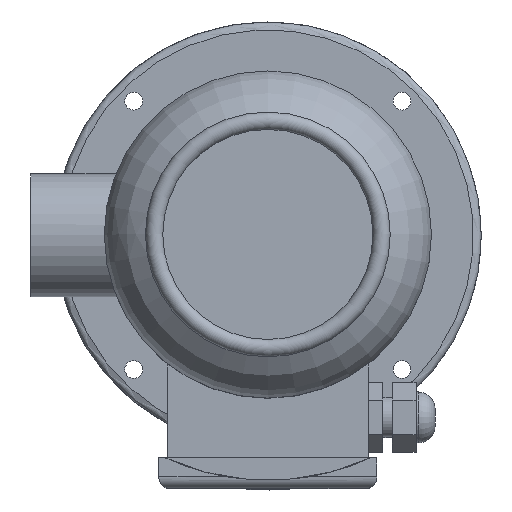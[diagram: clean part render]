
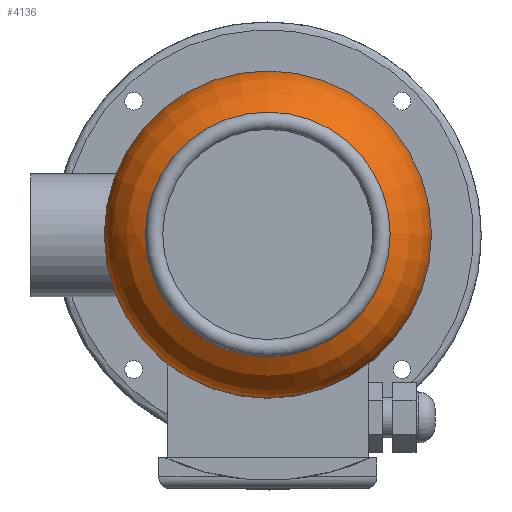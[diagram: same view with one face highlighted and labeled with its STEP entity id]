
A CAD part, top view. The second image highlights one B-rep face of the part: STEP entity #4136.
In plain terms, the highlighted toroidal (fillet/blend) face has major radius 37.539 mm and minor radius 32 mm.
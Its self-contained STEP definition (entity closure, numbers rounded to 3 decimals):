
#114=TOROIDAL_SURFACE('',#4449,37.539,32.);
#429=CIRCLE('',#4444,68.997);
#431=CIRCLE('',#4448,51.3);
#1550=ORIENTED_EDGE('',*,*,#2109,.T.);
#1551=ORIENTED_EDGE('',*,*,#2111,.T.);
#2109=EDGE_CURVE('',#2504,#2504,#429,.F.);
#2111=EDGE_CURVE('',#2506,#2506,#431,.T.);
#2504=VERTEX_POINT('',#9549);
#2506=VERTEX_POINT('',#9555);
#3430=EDGE_LOOP('',(#1550));
#3431=EDGE_LOOP('',(#1551));
#3779=FACE_BOUND('',#3430,.T.);
#3780=FACE_BOUND('',#3431,.T.);
#4136=ADVANCED_FACE('',(#3779,#3780),#114,.T.);
#4444=AXIS2_PLACEMENT_3D('',#9548,#5328,#5329);
#4448=AXIS2_PLACEMENT_3D('',#9554,#5336,#5337);
#4449=AXIS2_PLACEMENT_3D('',#9556,#5338,#5339);
#5328=DIRECTION('',(0.,0.,-1.));
#5329=DIRECTION('',(-1.,0.,0.));
#5336=DIRECTION('',(0.,0.,-1.));
#5337=DIRECTION('',(-1.,0.,0.));
#5338=DIRECTION('',(0.,0.,-1.));
#5339=DIRECTION('',(-1.,0.,0.));
#9548=CARTESIAN_POINT('',(0.,0.,355.558));
#9549=CARTESIAN_POINT('',(-68.997,0.,355.558));
#9554=CARTESIAN_POINT('',(0.,0.,378.586));
#9555=CARTESIAN_POINT('',(-51.3,0.,378.586));
#9556=CARTESIAN_POINT('',(0.,0.,349.696));
